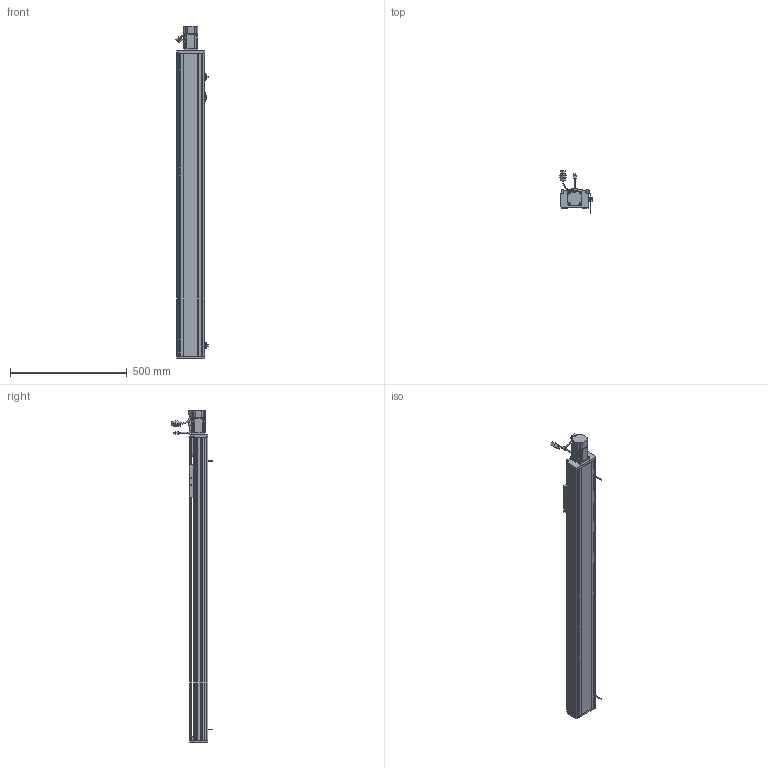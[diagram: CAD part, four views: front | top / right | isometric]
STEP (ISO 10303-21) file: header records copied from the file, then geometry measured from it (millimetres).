
FILE_DESCRIPTION (( 'STEP AP214' ), '1' );
FILE_NAME ('CTH120-1050.STEP', '2019-11-20T02:46:00', ( '微软用户' ), ( '微软中国' ), 'SwSTEP 2.0', 'SolidWorks 2017', '' );
FILE_SCHEMA (( 'AUTOMOTIVE_DESIGN' ));
Length unit declared in the file: millimetre
Products named in the file (33): 7001; 噩砃EGH15-CA; 粣創揤啣; M3-L8囀鞠褒蹟佪; COL12B-粣遠; CT12耀郪-覜茼んえ; 坶踡蹟譫; EE-SX672-BR; 120耀郪-粣創釱; M4-L6半圆头内六角螺丝; 120耀郪-傷啣; M5-L20囀鞠褒蹟佪; 120模组-盖子_默认<按加工>; M5-L12囀鞠褒蹟佪; 120耀郪-侜督儂啣; 怢湛200W侜督萇儂ECMA-CX0602ES; SFH1605; 盓傅釱蚾饜极; 136蹟簽蟀諉輸; 6000; 120模组-移动座_默认<按加工>; 120耀郪-盓傅釱; SFH1605-450; M4-L16囀鞠褒蹟佪; 120模组-底座_默认<按加工>; EGH15-CA; EGH15_RAIL; CTH120-1050; 珨极宒粣創釱; 遣喳蝶15x12x8; M4-L10囀鞠褒蹟佪; M4-L22囀鞠褒蹟佪; 7001-DB
Assembly tree (90 placements, depth 4):
  CTH120-1050
    120模组-底座_默认<按加工>
    SFH1605-450
    120模组-移动座_默认<按加工>
    136蹟簽蟀諉輸
    SFH1605
    120耀郪-侜督儂啣
    120模组-盖子_默认<按加工>
    120耀郪-傷啣
    珨极宒粣創釱
      120耀郪-粣創釱
      坶踡蹟譫
      COL12B-粣遠  x2
      粣創揤啣
      7001-DB
        7001  x2
      M4-L22囀鞠褒蹟佪  x6
      M4-L10囀鞠褒蹟佪  x4
      遣喳蝶15x12x8
    EGH15_RAIL  x2
    EGH15-CA  x2
    M4-L16囀鞠褒蹟佪  x8
    M4-L10囀鞠褒蹟佪  x22
    盓傅釱蚾饜极
      120耀郪-盓傅釱
      6000
      遣喳蝶15x12x8  x2
      M4-L22囀鞠褒蹟佪  x2
    怢湛200W侜督萇儂ECMA-CX0602ES
    M5-L12囀鞠褒蹟佪  x3
    M5-L20囀鞠褒蹟佪  x4
    M4-L6半圆头内六角螺丝  x4
    EE-SX672-BR  x2
    CT12耀郪-覜茼んえ
    M3-L8囀鞠褒蹟佪  x4
    噩砃EGH15-CA  x2
Bounding box: 137.94 x 179.67 x 1422 mm (x, y, z)
Volume: 5248389 mm3; surface area: 1624564.9 mm2
Topology: 87 solids, 96 shells, 5496 faces, 14595 edges, 9353 vertices
Faces by surface type: plane 2935, cylinder 1668, cone 559, bspline 241, torus 81, sphere 12
Entity records: 119638 total; most frequent: CARTESIAN_POINT 35453, ORIENTED_EDGE 17832, DIRECTION 16007, EDGE_CURVE 8916, VERTEX_POINT 5855, AXIS2_PLACEMENT_3D 5490, LINE 5027, VECTOR 5027
